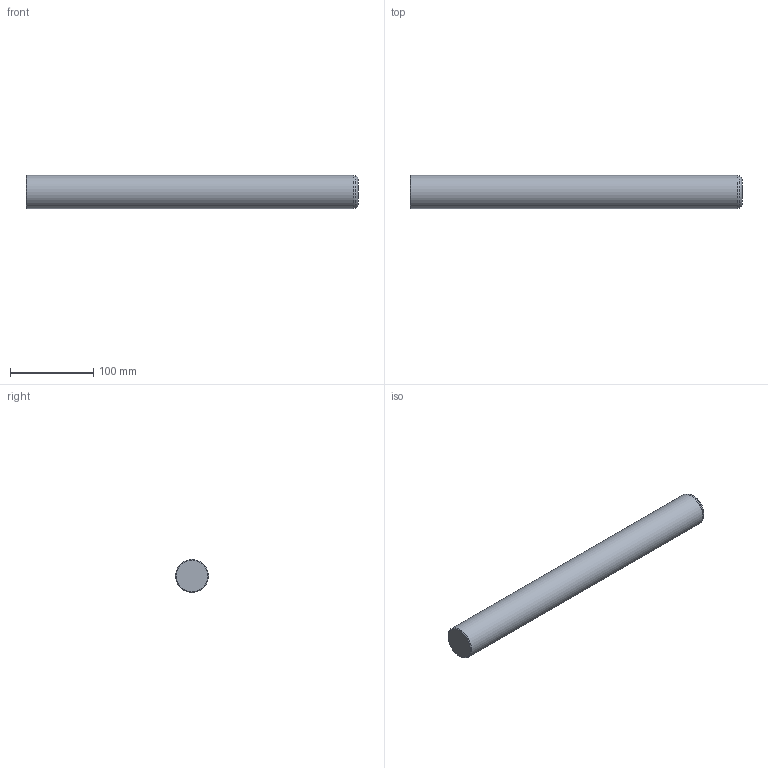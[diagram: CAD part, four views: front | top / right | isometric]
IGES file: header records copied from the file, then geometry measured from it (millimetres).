
Global section: file name: C440400.ipt; native system: Autodesk Inventor 2021; preprocessor: unknown; author: SM; date: 20211220.143343; units: millimetre
Bounding box: 400 x 40 x 40 mm (x, y, z)
Volume: 501944.3 mm3; surface area: 52424.2 mm2
Topology: 1 solids, 1 shells, 6 faces, 11 edges, 7 vertices
Faces by surface type: cone 2, plane 2, revolution 1, cylinder 1
Full cylindrical faces by diameter (mm): 40 x1
